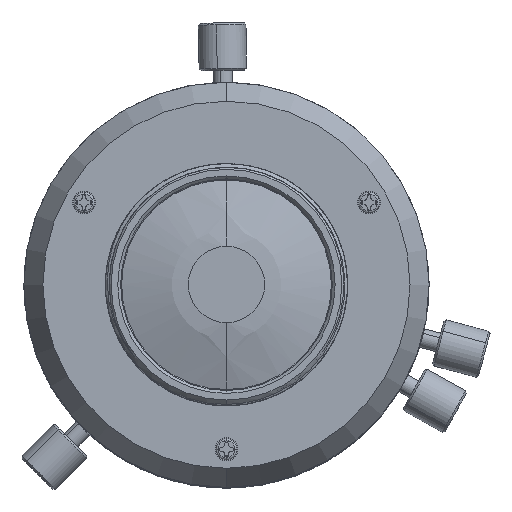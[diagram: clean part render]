
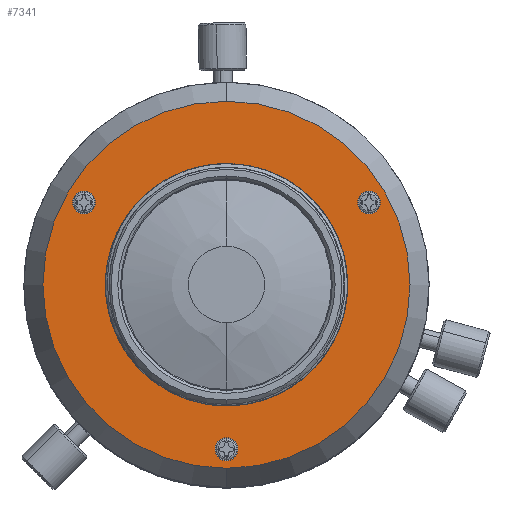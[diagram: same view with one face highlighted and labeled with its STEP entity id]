
A CAD part, top view. The second image highlights one B-rep face of the part: STEP entity #7341.
In plain terms, the highlighted planar face has unit normal (0, 0, 1) as drawn and (0, -1, 0) by its records, which use the part's own axes.
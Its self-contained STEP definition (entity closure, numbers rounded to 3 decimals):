
#6058=CARTESIAN_POINT('',(0.,-2.674,0.));
#6059=DIRECTION('',(0.,1.,0.));
#6060=DIRECTION('',(0.,0.,-1.));
#6061=AXIS2_PLACEMENT_3D('',#6058,#6059,#6060);
#6063=CARTESIAN_POINT('',(0.,-2.674,0.));
#6064=DIRECTION('',(0.,1.,0.));
#6065=DIRECTION('',(0.,0.,1.));
#6066=AXIS2_PLACEMENT_3D('',#6063,#6064,#6065);
#6068=CARTESIAN_POINT('',(0.,-2.674,0.));
#6069=DIRECTION('',(0.,-1.,0.));
#6070=DIRECTION('',(0.,0.,1.));
#6071=AXIS2_PLACEMENT_3D('',#6068,#6069,#6070);
#6073=CARTESIAN_POINT('',(0.,-2.674,0.));
#6074=DIRECTION('',(0.,-1.,0.));
#6075=DIRECTION('',(0.,0.,-1.));
#6076=AXIS2_PLACEMENT_3D('',#6073,#6074,#6075);
#6078=CARTESIAN_POINT('',(0.,-2.674,-17.25));
#6079=DIRECTION('',(0.,-1.,0.));
#6080=DIRECTION('',(0.,0.,-1.));
#6081=AXIS2_PLACEMENT_3D('',#6078,#6079,#6080);
#6083=CARTESIAN_POINT('',(0.,-2.674,-17.25));
#6084=DIRECTION('',(0.,-1.,0.));
#6085=DIRECTION('',(0.,0.,1.));
#6086=AXIS2_PLACEMENT_3D('',#6083,#6084,#6085);
#6088=CARTESIAN_POINT('',(14.939,-2.674,8.625));
#6089=DIRECTION('',(0.,-1.,0.));
#6090=DIRECTION('',(0.866,0.,0.5));
#6091=AXIS2_PLACEMENT_3D('',#6088,#6089,#6090);
#6093=CARTESIAN_POINT('',(14.939,-2.674,8.625));
#6094=DIRECTION('',(0.,-1.,0.));
#6095=DIRECTION('',(-0.866,0.,-0.5));
#6096=AXIS2_PLACEMENT_3D('',#6093,#6094,#6095);
#6098=CARTESIAN_POINT('',(-14.939,-2.674,8.625));
#6099=DIRECTION('',(0.,-1.,0.));
#6100=DIRECTION('',(-0.866,0.,0.5));
#6101=AXIS2_PLACEMENT_3D('',#6098,#6099,#6100);
#6103=CARTESIAN_POINT('',(-14.939,-2.674,8.625));
#6104=DIRECTION('',(0.,-1.,0.));
#6105=DIRECTION('',(0.866,0.,-0.5));
#6106=AXIS2_PLACEMENT_3D('',#6103,#6104,#6105);
#7092=CARTESIAN_POINT('',(0.,-2.674,-18.45));
#7093=CARTESIAN_POINT('',(0.,-2.674,-16.05));
#7094=VERTEX_POINT('',#7092);
#7095=VERTEX_POINT('',#7093);
#7096=CARTESIAN_POINT('',(0.,-2.674,-19.25));
#7097=CARTESIAN_POINT('',(0.,-2.674,19.25));
#7098=VERTEX_POINT('',#7096);
#7099=VERTEX_POINT('',#7097);
#7100=CARTESIAN_POINT('',(0.,-2.674,12.1));
#7101=CARTESIAN_POINT('',(0.,-2.674,-12.1));
#7102=VERTEX_POINT('',#7100);
#7103=VERTEX_POINT('',#7101);
#7104=CARTESIAN_POINT('',(15.978,-2.674,9.225));
#7105=CARTESIAN_POINT('',(13.9,-2.674,8.025));
#7106=VERTEX_POINT('',#7104);
#7107=VERTEX_POINT('',#7105);
#7108=CARTESIAN_POINT('',(-15.978,-2.674,9.225));
#7109=CARTESIAN_POINT('',(-13.9,-2.674,8.025));
#7110=VERTEX_POINT('',#7108);
#7111=VERTEX_POINT('',#7109);
#7308=CARTESIAN_POINT('',(0.,-2.674,0.));
#7309=DIRECTION('',(0.,-1.,0.));
#7310=DIRECTION('',(0.,0.,1.));
#7311=AXIS2_PLACEMENT_3D('',#7308,#7309,#7310);
#7312=PLANE('',#7311);
#7313=ORIENTED_EDGE('',*,*,#7288,.T.);
#7314=ORIENTED_EDGE('',*,*,#7302,.T.);
#7315=EDGE_LOOP('',(#7313,#7314));
#7316=FACE_OUTER_BOUND('',#7315,.F.);
#7318=ORIENTED_EDGE('',*,*,#7317,.T.);
#7320=ORIENTED_EDGE('',*,*,#7319,.T.);
#7321=EDGE_LOOP('',(#7318,#7320));
#7322=FACE_BOUND('',#7321,.F.);
#7324=ORIENTED_EDGE('',*,*,#7323,.T.);
#7326=ORIENTED_EDGE('',*,*,#7325,.T.);
#7327=EDGE_LOOP('',(#7324,#7326));
#7328=FACE_BOUND('',#7327,.F.);
#7330=ORIENTED_EDGE('',*,*,#7329,.T.);
#7332=ORIENTED_EDGE('',*,*,#7331,.T.);
#7333=EDGE_LOOP('',(#7330,#7332));
#7334=FACE_BOUND('',#7333,.F.);
#7336=ORIENTED_EDGE('',*,*,#7335,.T.);
#7338=ORIENTED_EDGE('',*,*,#7337,.T.);
#7339=EDGE_LOOP('',(#7336,#7338));
#7340=FACE_BOUND('',#7339,.F.);
#7341=ADVANCED_FACE('',(#7316,#7322,#7328,#7334,#7340),#7312,.T.);
#6062=CIRCLE('',#6061,19.25);
#6067=CIRCLE('',#6066,19.25);
#6072=CIRCLE('',#6071,12.1);
#6077=CIRCLE('',#6076,12.1);
#6082=CIRCLE('',#6081,1.2);
#6087=CIRCLE('',#6086,1.2);
#6092=CIRCLE('',#6091,1.2);
#6097=CIRCLE('',#6096,1.2);
#6102=CIRCLE('',#6101,1.2);
#6107=CIRCLE('',#6106,1.2);
#7288=EDGE_CURVE('',#7098,#7099,#6062,.T.);
#7302=EDGE_CURVE('',#7099,#7098,#6067,.T.);
#7317=EDGE_CURVE('',#7102,#7103,#6072,.T.);
#7319=EDGE_CURVE('',#7103,#7102,#6077,.T.);
#7323=EDGE_CURVE('',#7094,#7095,#6082,.T.);
#7325=EDGE_CURVE('',#7095,#7094,#6087,.T.);
#7329=EDGE_CURVE('',#7106,#7107,#6092,.T.);
#7331=EDGE_CURVE('',#7107,#7106,#6097,.T.);
#7335=EDGE_CURVE('',#7110,#7111,#6102,.T.);
#7337=EDGE_CURVE('',#7111,#7110,#6107,.T.);
